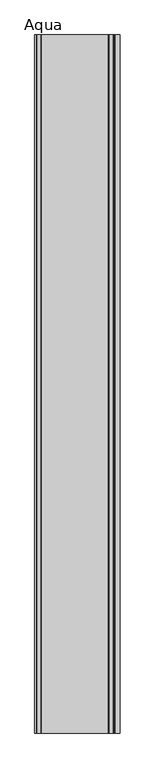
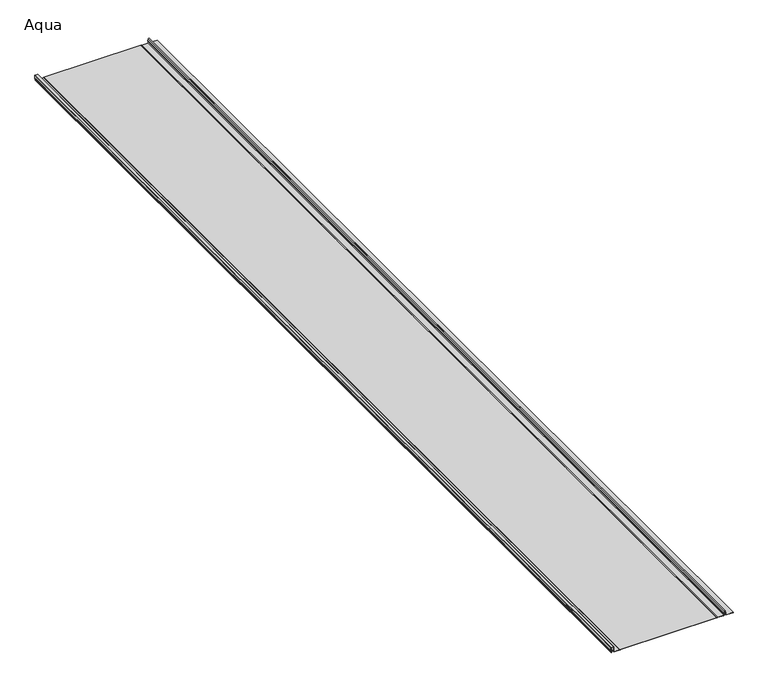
"""IFC4 building model written with IfcOpenShell, lengths in millimetres: proxy geometry, AQUAPLAST - Panel Dachowy i Elewacyjny Aqua : Aqua."""

from ifc_helpers import new_model, si_unit, point, frame, frame_2d, origin, origin_with_axes, place, context, project, spatial, polyline, circle_curve, trimmed, segment, composite_curve, outline, extrude, source, transform, mapped, element, save


def aqua_8310e829(model_context):
    return source(origin(), model_context, "Body", "SweptSolid", [
        extrude(outline(composite_curve([segment(polyline([(0.8, 270.9), (0.8, 240.520912)]), True, "CONTINUOUS"), segment(trimmed(circle_curve(frame_2d((1.4640676, 240.520912)), 0.6640676), [point((0.8, 240.520912))], [point((1.3501315, 239.8666916))], True, "CARTESIAN"), True, "CONTINUOUS"), segment(polyline([(1.3501315, 239.8666916), (18.7653554, 236.8337349)]), True, "CONTINUOUS"), segment(trimmed(circle_curve(frame_2d((18.1818617, 234.1906389)), 2.7067363), [point((18.7653554, 236.8337349))], [point((19.5352298, 231.8465366))], False, "CARTESIAN"), True, "CONTINUOUS"), segment(polyline([(19.5352298, 231.8465366), (12.1941629, 228.8862764)]), True, "CONTINUOUS"), segment(trimmed(circle_curve(frame_2d((11.2676679, 231.1838657)), 2.4773594), [point((12.1941629, 228.8862764))], [point((9.0024093, 230.1809133))], False, "CARTESIAN"), True, "CONTINUOUS"), segment(trimmed(circle_curve(frame_2d((5.4667311, 228.6154775)), 3.8667311), [point((9.0024093, 230.1809133))], [point((1.6, 228.6154775))], True, "CARTESIAN"), True, "CONTINUOUS"), segment(polyline([(1.6, 228.6154775), (1.6, 201.7000503), (0.8, 198.2000503), (0.0, 198.2000503), (0.8, 201.7000503), (0.8, 228.4563021)]), True, "CONTINUOUS"), segment(trimmed(circle_curve(frame_2d((5.5014361, 228.4563021)), 4.7014361), [point((0.8, 228.4563021))], [point((9.7513874, 230.4666293))], False, "CARTESIAN"), True, "CONTINUOUS"), segment(trimmed(circle_curve(frame_2d((11.2676679, 231.1838657)), 1.6773594), [point((9.7513874, 230.4666293))], [point((11.8934079, 229.6275932))], True, "CARTESIAN"), True, "CONTINUOUS"), segment(polyline([(11.8934079, 229.6275932), (19.1352298, 232.5393569)]), True, "CONTINUOUS"), segment(trimmed(circle_curve(frame_2d((18.1818617, 234.1906389)), 1.9067363), [point((19.1352298, 232.5393569))], [point((18.4803326, 236.0738697))], True, "CARTESIAN"), True, "CONTINUOUS"), segment(polyline([(18.4803326, 236.0738697), (0.6241817, 238.9038691)]), True, "CONTINUOUS"), segment(trimmed(circle_curve(frame_2d((0.7400208, 239.6347673)), 0.7400208), [point((0.6241817, 238.9038691))], [point((0.0, 239.6347673))], False, "CARTESIAN"), True, "CONTINUOUS"), segment(polyline([(0.0, 239.6347673), (0.0, 270.9), (0.8, 270.9)]), True, "CONTINUOUS")], self_intersect=False)), frame((0.0, 0.0, 0.0), z_axis=(0.0, 1.0, 0.0), x_axis=(0.0, 0.0, 1.0)), (0.0, 0.0, 1.0), 4454.0),
        extrude(outline(composite_curve([segment(polyline([(1.6, -237.5), (1.6, -260.6)]), True, "CONTINUOUS"), segment(trimmed(circle_curve(frame_2d((2.1, -260.6)), 0.5), [point((1.6, -260.6))], [point((2.1, -261.1))], True, "CARTESIAN"), True, "CONTINUOUS"), segment(polyline([(2.1, -261.1), (24.5, -261.1)]), True, "CONTINUOUS"), segment(trimmed(circle_curve(frame_2d((24.5, -261.6)), 0.5), [point((24.5, -261.1))], [point((25.0, -261.6))], False, "CARTESIAN"), True, "CONTINUOUS"), segment(polyline([(25.0, -261.6), (25.0, -273.6)]), True, "CONTINUOUS"), segment(trimmed(circle_curve(frame_2d((24.5, -273.6)), 0.5), [point((25.0, -273.6))], [point((24.5, -274.1))], False, "CARTESIAN"), True, "CONTINUOUS"), segment(polyline([(24.5, -274.1), (8.8039223, -274.1)]), True, "CONTINUOUS"), segment(trimmed(circle_curve(frame_2d((8.8039223, -273.4250457)), 0.6749543), [point((8.8039223, -274.1))], [point((8.1289934, -273.4191923))], False, "CARTESIAN"), True, "CONTINUOUS"), segment(trimmed(circle_curve(frame_2d((5.3847863, -273.4191923)), 2.7442071), [point((8.1289934, -273.4191923))], [point((2.6405793, -273.4191923))], True, "CARTESIAN"), True, "CONTINUOUS"), segment(polyline([(2.6405793, -273.4191923), (1.8403383, -273.4191923)]), True, "CONTINUOUS"), segment(trimmed(circle_curve(frame_2d((5.4137846, -273.4191923)), 3.5734462), [point((1.8403383, -273.4191923))], [point((8.9478642, -272.8902321))], False, "CARTESIAN"), True, "CONTINUOUS"), segment(trimmed(circle_curve(frame_2d((9.7850119, -272.4539484)), 0.9440125), [point((8.9478642, -272.8902321))], [point((9.7850119, -273.397961))], True, "CARTESIAN"), True, "CONTINUOUS"), segment(polyline([(9.7850119, -273.397961), (23.6993591, -273.397961)]), True, "CONTINUOUS"), segment(trimmed(circle_curve(frame_2d((23.6993591, -272.8966773)), 0.5012837), [point((23.6993591, -273.397961))], [point((24.2006428, -272.8966773))], True, "CARTESIAN"), True, "CONTINUOUS"), segment(polyline([(24.2006428, -272.8966773), (24.2006428, -262.4001579)]), True, "CONTINUOUS"), segment(trimmed(circle_curve(frame_2d((23.7003195, -262.4001579)), 0.5003233), [point((24.2006428, -262.4001579))], [point((23.7003195, -261.8998346))], True, "CARTESIAN"), True, "CONTINUOUS"), segment(polyline([(23.7003195, -261.8998346), (1.2999699, -261.8998346)]), True, "CONTINUOUS"), segment(trimmed(circle_curve(frame_2d((1.2999699, -261.3999248)), 0.4999098), [point((1.2999699, -261.8998346))], [point((0.8000601, -261.3999248))], False, "CARTESIAN"), True, "CONTINUOUS"), segment(polyline([(0.8000601, -261.3999248), (0.8000601, -237.5), (0.0, -234.0), (0.8, -234.0), (1.6, -237.5)]), True, "CONTINUOUS")], self_intersect=False)), frame((0.0, 0.0, 0.0), z_axis=(0.0, 1.0, 0.0), x_axis=(0.0, 0.0, 1.0)), (0.0, 0.0, 1.0), 4454.0),
        extrude(outline(polyline([(-234.0, 4454.0), (198.2000503, 4454.0), (198.2000503, 0.0), (-234.0, 0.0), (-234.0, 4454.0)])), origin_with_axes(), (0.0, 0.0, 1.0), 0.8),
    ])


if __name__ == "__main__":
    model = new_model("IFC4")
    model_context = context("Model", 3, world=origin())
    ifc_project = project(units=[si_unit("LENGTHUNIT", "METRE", prefix="MILLI")], contexts=[model_context])
    site = spatial("IfcSite", under=ifc_project)
    building = spatial("IfcBuilding", under=site)
    placement = place(None, origin())
    aqua_shape = aqua_8310e829(model_context)
    element("IfcBuildingElementProxy", 1, Name="AQUAPLAST - Panel Dachowy i Elewacyjny Aqua : Aqua", ObjectType="AQUAPLAST - Panel Dachowy i Elewacyjny Aqua : Aqua", at=placement, inside=building, context=model_context, shape_type="MappedRepresentation", body=[
        mapped(aqua_shape, transform((0.0, 0.0, 0.0), x_axis=(1.0, 0.0, 0.0), y_axis=(0.0, 1.0, 0.0), z_axis=(0.0, 0.0, 1.0))),
    ])
    save(model, "model.ifc")
